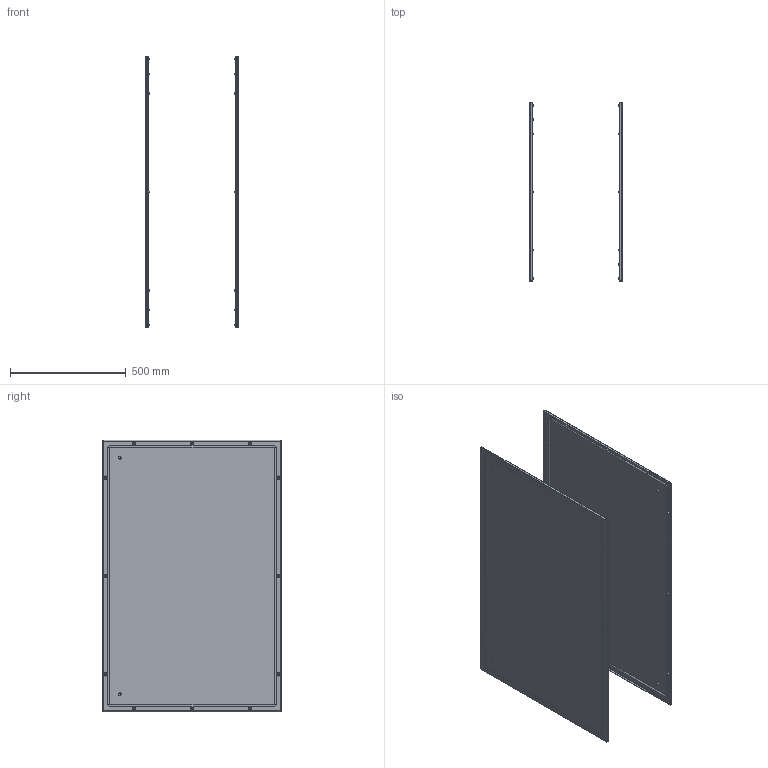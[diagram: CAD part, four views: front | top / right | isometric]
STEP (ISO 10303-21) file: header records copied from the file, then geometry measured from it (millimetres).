
FILE_DESCRIPTION(('STEP AP203'), '1');
FILE_NAME('3303 Áîêîâàÿ ïàíåëü ÑÁ', '', ('UNSPECIFIED'), ('UNSPECIFIED'), 'C3D Converter', 'C3D Toolkit', '');
FILE_SCHEMA(('CONFIG_CONTROL_DESIGN'));
Length unit declared in the file: millimetre
Products named in the file (5): 3303.120.80 СБ; 3302; 3211
Assembly tree (17 placements, depth 3):
  3303.120.80 СБ
    3302  x2
      3211
      (unnamed)
      (unnamed)
Bounding box: 400 x 773 x 1171 mm (x, y, z)
Volume: 3090811 mm3; surface area: 3996670.6 mm2
Topology: 32 solids, 32 shells, 938 faces, 2424 edges, 1680 vertices
Faces by surface type: plane 646, cylinder 132, cone 100, torus 60
Full cylindrical faces by diameter (mm): 5 x24, 6 x28, 9.2 x24, 11.5 x8
Entity records: 6101 total; most frequent: CARTESIAN_POINT 1737, DIRECTION 802, ORIENTED_EDGE 584, AXIS2_PLACEMENT_3D 327, EDGE_CURVE 292, EDGE_LOOP 276, VERTEX_POINT 220, ADVANCED_FACE 165
